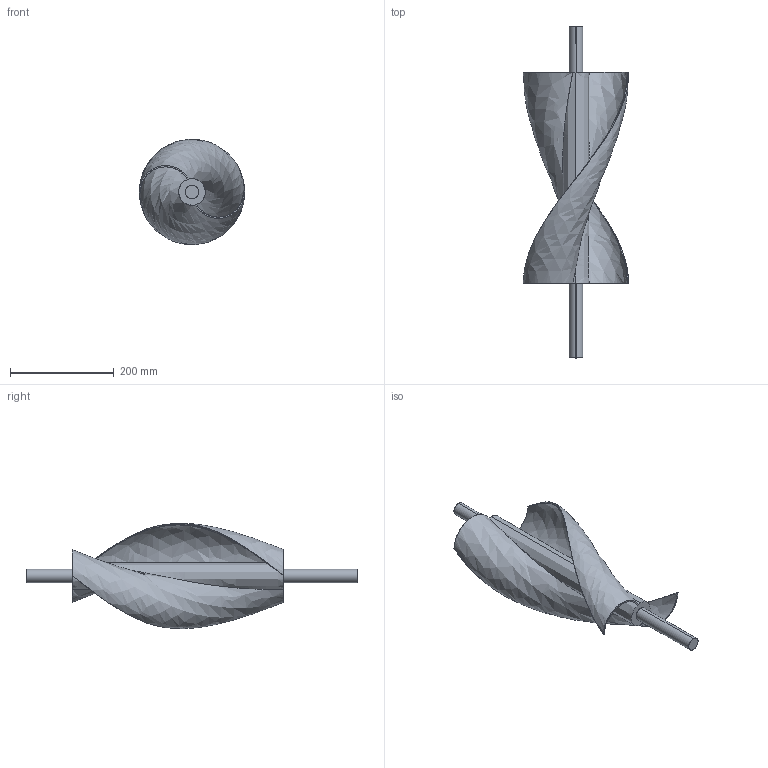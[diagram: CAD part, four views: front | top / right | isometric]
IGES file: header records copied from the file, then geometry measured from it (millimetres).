
Start section: SolidWorks IGES file using analytic representation for surfaces
Global section: file name: F:\iCAD - Projects\Wind turbine\Helical Savonius VAWT\Helical-Savonius VAWT.IGS; native system: SolidWorks 2022; preprocessor: SolidWorks 2022; author: prasa; date: 220811.110139; units: inch
Bounding box: 203.19 x 638.67 x 202.79 mm (x, y, z)
Surface area: 309187.7 mm2 (no closed solid volume)
Topology: 0 solids, 0 shells, 20 faces, 806 edges, 806 vertices
Faces by surface type: revolution 10, bspline 10
